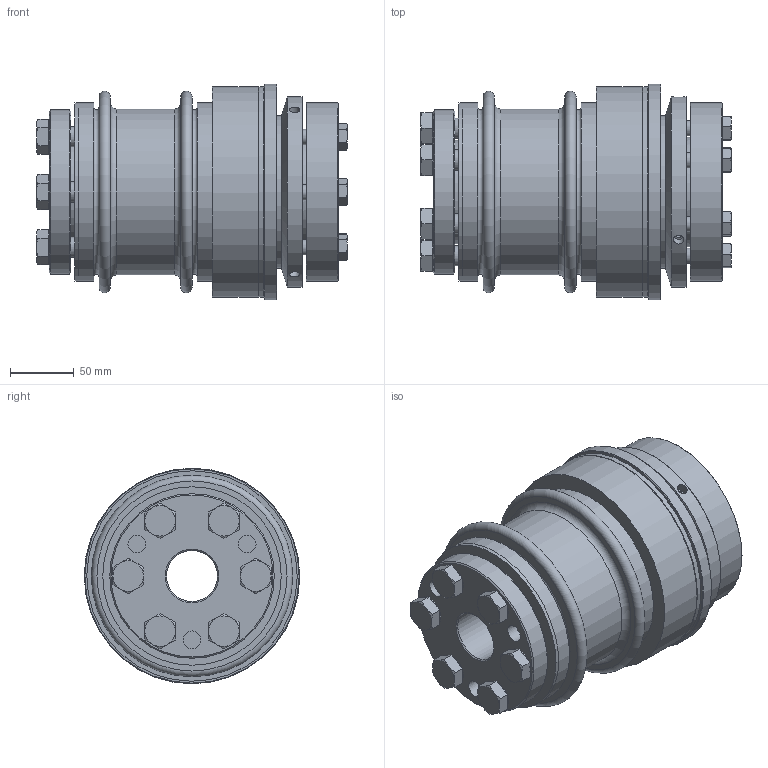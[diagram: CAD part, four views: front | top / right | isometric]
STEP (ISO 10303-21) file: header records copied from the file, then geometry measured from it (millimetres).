
FILE_DESCRIPTION( ( 'Unknown' ), '1' );
FILE_NAME( 'K:/Konstruktion/Korrigierte 3D Modelle/KBK-B-IA/KBK-BIA-800-243.stp', 'Unknown', ( 'Unknown' ), ( 'Unknown' ), 'PSStep 16.0.42', 'Unknown', ' ' );
FILE_SCHEMA( ( 'AUTOMOTIVE_DESIGN { 1 0 10303 214 1 1 1 1 }' ) );
Length unit declared in the file: millimetre
Products named in the file (31): ball_bearing_-_61916_0_01; ball_bearing_-_61916_0_02; ball_bearing_-_61916_0_03; din_en_24017_m12x40; Flansch 800; Flansch 800 - 1400; Stellring 800; Druckring 800; Assem2; Druckring L-A-800; KBK L-A-800 Grundkörper; a_80; BA800-1400; Hex Screw GradeC_DIN_ISO 4018 - M16 x 45-WN; balg_Standard_2; A-1400; KB800; Assem1
Assembly tree (40 placements, depth 5):
  Assem1
    balg_Standard_2
      balg_Standard_2
    BA800-1400
      BA800-1400
    KB800
      KB800
    Hex Screw GradeC_DIN_ISO 4018 - M16 x 45-WN  x6
      Hex Screw GradeC_DIN_ISO 4018 - M16 x 45-WN
    A-1400
      Stellring 800
        Stellring 800
      Druckring 800
        Druckring 800
      a_80
        a_80
      KBK L-A-800 Grundkörper
        KBK L-A-800 Grundkörper
      din_en_24017_m12x40  x6
        din_en_24017_m12x40
      Flansch 800
        Flansch 800 - 1400
      Druckring L-A-800
        Druckring L-A-800
      Assem2
        ball_bearing_-_61916_0_01
          ball_bearing_-_61916_0_01
        ball_bearing_-_61916_0_02
          ball_bearing_-_61916_0_02
        ball_bearing_-_61916_0_03
          ball_bearing_-_61916_0_03
Bounding box: 243.85 x 169 x 169 mm (x, y, z)
Volume: 2412266.8 mm3; surface area: 573135.8 mm2
Topology: 24 solids, 24 shells, 491 faces, 1047 edges, 658 vertices
Faces by surface type: plane 230, cone 123, cylinder 109, torus 29
Full cylindrical faces by diameter (mm): 3 x2, 4.917 x3, 6.2 x3, 8.1 x3, 10.106 x6, 12 x6, 13.835 x9, 14 x6, 16 x6, 16.63 x6, 17.5 x6, 24 x6, 40 x1, 50 x1, 76.5 x1, 80 x3, 81 x1, 85.816 x1, 89.6 x2, 100 x1, 101 x2, 110 x2, 120 x2, 124 x1, 126 x2, 127 x1, 129 x1, 130 x1, 135 x1, 137 x4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
Entity records: 9514 total; most frequent: CARTESIAN_POINT 1568, DIRECTION 1252, ORIENTED_EDGE 770, AXIS2_PLACEMENT_3D 587, EDGE_LOOP 500, EDGE_CURVE 385, FACE_OUTER_BOUND 362, VERTEX_POINT 325
